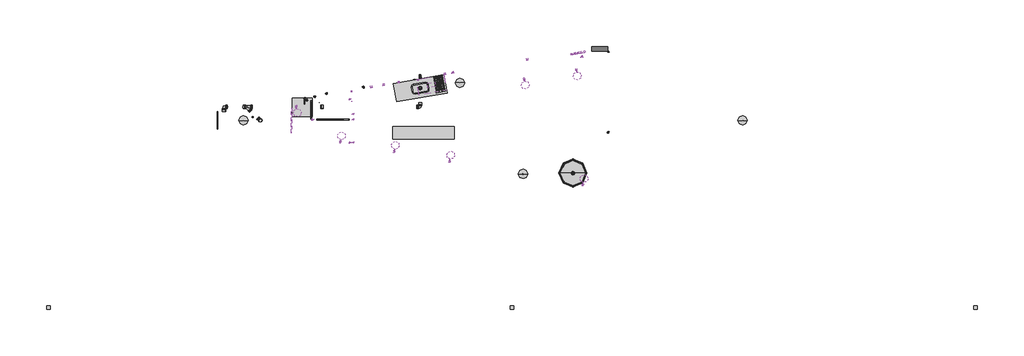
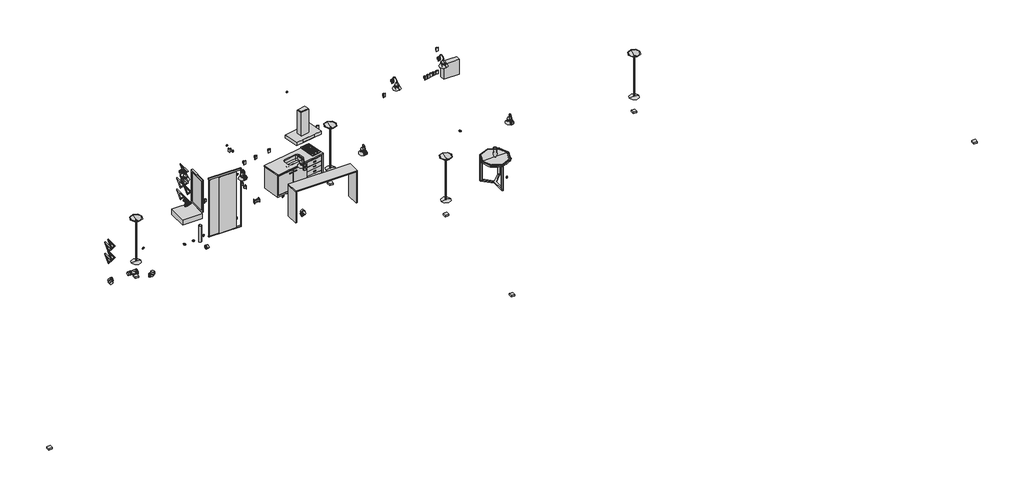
# One storey, incomplete: 27 pipe fittings, 18 light fixtures, 16 proxies, 10 plates, 7 cable carrier fittings, 7 switching devices, 6 flow terminals, 4 furniture elements.
"""IFC4 building model written with IfcOpenShell, lengths in millimetres."""

from ifc_helpers import new_model, si_unit, frame, origin, place, context, project, spatial, ellipse_curve, transform, mapped, element, save
from ifc_brep_helpers import cylinder_surface, advanced_brep
from components import specialty_equipment_48de4780, mechanical_equipment_0401596d, mechanical_equipment_61f77ee9, proxy_100_a_deb79597, cooktop_gas_miele_2_burner_c7116c69, tue_alta_10251bba, cable_carrier_fitting_8073d2f8, flow_terminal_f574be0a, flow_terminal_51a5b938, flow_terminal_f5ff5782, flow_terminal_25407447, flow_terminal_100_x_100_mm_1efbe544, cs2_560_x_335_cd160908, vidro_136e0591, furniture_c6021220, furniture_dbd7fda2, furniture_1b7d42ac, furniture_7d7f911b, light_fixture_100w_120v_0846f9e9, light_fixture_127v_5791e779, pipe_fitting_ea4bc239, pipe_fitting_cfdc0b9c, pipe_fitting_c36cd420, pipe_fitting_b5be2192, pipe_fitting_5686e5ae, pipe_fitting_60dbfa68, pipe_fitting_052252b0, pipe_fitting_2df96e2d, pipe_fitting_ddecea94, pipe_fitting_a3cdd3d7, pipe_fitting_5dcb9ee0, pipe_fitting_8690ee65, plate_e07f869c, plate_b1349e85

model = new_model("IFC4")

# Units and contexts
model_context = context("Model", 3, world=origin())
ifc_project = project(units=[si_unit("LENGTHUNIT", "METRE", prefix="MILLI")], contexts=[model_context])

# Site, building, storey
site = spatial("IfcSite", under=ifc_project)
building = spatial("IfcBuilding", under=site)
storey = spatial("IfcBuildingStorey", under=building, Name="TÉRREO", Elevation=0.0)

# Proxies
placement = place(None, origin())
specialty_equipment_shape = specialty_equipment_48de4780(model_context)
element("IfcBuildingElementProxy", 1, Name="Vaso estreito : Vaso estreito", ObjectType="Vaso estreito : Vaso estreito", at=placement, inside=storey, context=model_context, shape_type="MappedRepresentation", body=[
    mapped(specialty_equipment_shape, transform((133268.6768402, -77247.7398018, 900.0), x_axis=(-1.0, 0.0, 0.0), y_axis=(0.0, -1.0, 0.0), z_axis=(0.0, 0.0, 1.0))),
])
mechanical_equipment_shape = mechanical_equipment_0401596d(model_context)
element("IfcBuildingElementProxy", 2, Name="Coifa Gourmand de Parede : Coifa Gourmand de Parede", ObjectType="Coifa Gourmand de Parede : Coifa Gourmand de Parede", at=placement, inside=storey, context=model_context, shape_type="MappedRepresentation", body=[
    mapped(mechanical_equipment_shape, transform((128695.4834196, -74394.6416647, 1000.0), x_axis=(0.98480775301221, 0.17364817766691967, 0.0), y_axis=(-0.17364817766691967, 0.98480775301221, 0.0), z_axis=(0.0, 0.0, 1.0))),
])
mechanical_equipment_2_shape = mechanical_equipment_61f77ee9(model_context)
element("IfcBuildingElementProxy", 3, Name="M_Conector de duto retangular - Ar de exaustão - Equipamento mecânico : Padrão", ObjectType="M_Conector de duto retangular - Ar de exaustão - Equipamento mecânico : Padrão", at=placement, inside=storey, context=model_context, shape_type="MappedRepresentation", body=[
    mapped(mechanical_equipment_2_shape, transform((128695.4834196, -74394.6416647, 2384.9499323), x_axis=(-0.1736481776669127, 0.9848077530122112, 0.0), y_axis=(-0.9848077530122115, -0.17364817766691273, 0.0), z_axis=(0.0, 0.0, 1.0000000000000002))),
])
proxy_100_a_shape = proxy_100_a_deb79597(model_context)
element("IfcBuildingElementProxy", 4, Name="Painel Embutido : 100 A", ObjectType="Painel Embutido : 100 A", at=placement, inside=storey, context=model_context, shape_type="MappedRepresentation", body=[
    mapped(proxy_100_a_shape, transform((134136.0148435, -73148.5761254, 1619.1), x_axis=(-1.0, 0.0, 0.0), y_axis=(0.0, 0.0, 1.0), z_axis=(0.0, 1.0, 0.0))),
])
cooktop_gas_miele_2_burner_shape = cooktop_gas_miele_2_burner_c7116c69(model_context)
element("IfcBuildingElementProxy", 5, Name="Cooktop Gas Miele 2 Burner : 288w x 57h x 520d", ObjectType="Cooktop Gas Miele 2 Burner : 288w x 57h x 520d", at=placement, inside=storey, context=model_context, shape_type="MappedRepresentation", body=[
    mapped(cooktop_gas_miele_2_burner_shape, transform((128951.067168, -74369.8838863, 0.0), x_axis=(0.9848077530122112, 0.1736481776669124, 0.0), y_axis=(-0.1736481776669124, 0.9848077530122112, 0.0), z_axis=(0.0, 0.0, 1.0))),
])
tue_alta_shape = tue_alta_10251bba(model_context)
element("IfcBuildingElementProxy", 6, Name="Ponto de Tomada - Eletroduto -B-M-A-TUE : TUE alta", ObjectType="Ponto de Tomada - Eletroduto -B-M-A-TUE : TUE alta", at=placement, inside=storey, context=model_context, shape_type="MappedRepresentation", body=[
    mapped(tue_alta_shape, transform((126034.7608783, -74851.4613953, 2200.0), x_axis=(0.0, -1.0, 0.0), y_axis=(0.0, 0.0, 1.0), z_axis=(-1.0, 0.0, 0.0))),
])
element("IfcBuildingElementProxy", 7, Name="Ponto de Tomada - Eletroduto -B-M-A-TUE : TUE alta", ObjectType="Ponto de Tomada - Eletroduto -B-M-A-TUE : TUE alta", at=placement, inside=storey, context=model_context, shape_type="MappedRepresentation", body=[
    mapped(tue_alta_shape, transform((133561.4246533, -73494.6110342, 2200.0), x_axis=(0.9848077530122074, 0.17364817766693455, 0.0), y_axis=(0.0, 0.0, 1.0), z_axis=(0.17364817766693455, -0.9848077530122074, 0.0))),
])
element("IfcBuildingElementProxy", 8, Name="Ponto de Tomada - Eletroduto -B-M-A-TUE : TUE media", ObjectType="Ponto de Tomada - Eletroduto -B-M-A-TUE : TUE media", at=placement, inside=storey, context=model_context, shape_type="MappedRepresentation", body=[
    mapped(tue_alta_shape, transform((127640.5863255, -74319.5616739, 1300.0), x_axis=(0.9848077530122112, 0.17364817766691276, 0.0), y_axis=(0.0, 0.0, 1.0000000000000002), z_axis=(0.17364817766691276, -0.9848077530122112, 0.0))),
])
element("IfcBuildingElementProxy", 9, Name="Ponto de Tomada - Eletroduto -B-M-A-TUE : media 600VA", ObjectType="Ponto de Tomada - Eletroduto -B-M-A-TUE : media 600VA", at=placement, inside=storey, context=model_context, shape_type="MappedRepresentation", body=[
    mapped(tue_alta_shape, transform((124834.7608783, -75515.5558582, 1300.0), x_axis=(0.0, 1.0, 0.0), y_axis=(0.0, 0.0, -1.0), z_axis=(-1.0, 0.0, 0.0))),
])
element("IfcBuildingElementProxy", 10, Name="Ponto de Tomada - Eletroduto -B-M-A-TUE : media 600VA", ObjectType="Ponto de Tomada - Eletroduto -B-M-A-TUE : media 600VA", at=placement, inside=storey, context=model_context, shape_type="MappedRepresentation", body=[
    mapped(tue_alta_shape, transform((126184.7608783, -76263.7537878, 1300.0), x_axis=(0.0, 1.0, 0.0), y_axis=(0.0, 0.0, 1.0), z_axis=(1.0, 0.0, 0.0))),
])
element("IfcBuildingElementProxy", 11, Name="Ponto de Tomada - Eletroduto -B-M-A-TUE : media 600VA", ObjectType="Ponto de Tomada - Eletroduto -B-M-A-TUE : media 600VA", at=placement, inside=storey, context=model_context, shape_type="MappedRepresentation", body=[
    mapped(tue_alta_shape, transform((126184.7608783, -75343.0255541, 1300.0), x_axis=(0.0, 1.0, 0.0), y_axis=(0.0, 0.0, 1.0), z_axis=(1.0, 0.0, 0.0))),
])
element("IfcBuildingElementProxy", 12, Name="Ponto de Tomada - Eletroduto -B-M-A-TUE : media 600VA", ObjectType="Ponto de Tomada - Eletroduto -B-M-A-TUE : media 600VA", at=placement, inside=storey, context=model_context, shape_type="MappedRepresentation", body=[
    mapped(tue_alta_shape, transform((126746.5017561, -74477.2129065, 1300.0), x_axis=(-0.9848077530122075, -0.17364817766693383, 0.0), y_axis=(0.0, 0.0, -1.0), z_axis=(0.17364817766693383, -0.9848077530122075, 0.0))),
])
element("IfcBuildingElementProxy", 13, Name="Ponto de Tomada - Eletroduto -B-M-A-TUE : media 600VA", ObjectType="Ponto de Tomada - Eletroduto -B-M-A-TUE : media 600VA", at=placement, inside=storey, context=model_context, shape_type="MappedRepresentation", body=[
    mapped(tue_alta_shape, transform((127155.8368208, -74405.0360905, 1300.0), x_axis=(-0.9848077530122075, -0.17364817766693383, 0.0), y_axis=(0.0, 0.0, -1.0), z_axis=(0.17364817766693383, -0.9848077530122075, 0.0))),
])
element("IfcBuildingElementProxy", 14, Name="Ponto de Tomada - Eletroduto -B-M-A-TUE : media 600VA", ObjectType="Ponto de Tomada - Eletroduto -B-M-A-TUE : media 600VA", at=placement, inside=storey, context=model_context, shape_type="MappedRepresentation", body=[
    mapped(tue_alta_shape, transform((129134.267882, -74056.1853149, 1300.0), x_axis=(-0.9848077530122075, -0.17364817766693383, 0.0), y_axis=(0.0, 0.0, -1.0), z_axis=(0.17364817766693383, -0.9848077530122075, 0.0))),
])
element("IfcBuildingElementProxy", 15, Name="Ponto de Tomada - Eletroduto -B-M-A-TUE : media 600VA", ObjectType="Ponto de Tomada - Eletroduto -B-M-A-TUE : media 600VA", at=placement, inside=storey, context=model_context, shape_type="MappedRepresentation", body=[
    mapped(tue_alta_shape, transform((131793.5979262, -73587.2736775, 1300.0), x_axis=(0.9848077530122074, 0.17364817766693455, 0.0), y_axis=(0.0, 0.0, 1.0), z_axis=(0.17364817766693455, -0.9848077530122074, 0.0))),
])
element("IfcBuildingElementProxy", 16, Name="Ponto de Tomada - Eletroduto -B-M-A-TUE : media 600VA", ObjectType="Ponto de Tomada - Eletroduto -B-M-A-TUE : media 600VA", at=placement, inside=storey, context=model_context, shape_type="MappedRepresentation", body=[
    mapped(tue_alta_shape, transform((133650.0231785, -73341.4784791, 1300.0), x_axis=(0.9848077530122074, 0.17364817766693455, 0.0), y_axis=(0.0, 0.0, 1.0), z_axis=(0.17364817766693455, -0.9848077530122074, 0.0))),
])

# Cable carrier fittings
cable_carrier_fitting_shape = cable_carrier_fitting_8073d2f8(model_context)
element("IfcCableCarrierFitting", 17, ObjectType="M_Caixa de junção do conduíte - Cruzamento - Alumínio : Caixa de junção do conduíte - Cruzamento - Alumínio", at=placement, inside=storey, context=model_context, shape_type="MappedRepresentation", body=[
    mapped(cable_carrier_fitting_shape, transform((116304.3605052, -81608.0867177, -500.0), x_axis=(1.0, 0.0, 0.0), y_axis=(0.0, 1.0, 0.0), z_axis=(0.0, 0.0, 1.0))),
])
element("IfcCableCarrierFitting", 18, ObjectType="M_Caixa de junção do conduíte - Cruzamento - Alumínio : Caixa de junção do conduíte - Cruzamento - Alumínio", at=placement, inside=storey, context=model_context, shape_type="MappedRepresentation", body=[
    mapped(cable_carrier_fitting_shape, transform((131295.2229105, -81608.1676725, -500.0), x_axis=(1.0, 0.0, 0.0), y_axis=(0.0, 1.0, 0.0), z_axis=(0.0, 0.0, 1.0))),
])
element("IfcCableCarrierFitting", 19, ObjectType="M_Caixa de junção do conduíte - Cruzamento - Alumínio : Caixa de junção do conduíte - Cruzamento - Alumínio", at=placement, inside=storey, context=model_context, shape_type="MappedRepresentation", body=[
    mapped(cable_carrier_fitting_shape, transform((146295.2131449, -81608.1676725, -500.0), x_axis=(1.0, 0.0, 0.0), y_axis=(0.0, 1.0, 0.0), z_axis=(0.0, 0.0, 1.0))),
])
element("IfcCableCarrierFitting", 20, ObjectType="M_Caixa de junção do conduíte - Cruzamento - Alumínio : Caixa de junção do conduíte - Cruzamento - Alumínio", at=placement, inside=storey, context=model_context, shape_type="MappedRepresentation", body=[
    mapped(cable_carrier_fitting_shape, transform((138758.1948705, -75543.0255541, -500.0), x_axis=(1.0, 0.0, 0.0), y_axis=(0.0, 1.0, 0.0), z_axis=(0.0, 0.0, 1.0))),
])
element("IfcCableCarrierFitting", 21, ObjectType="M_Caixa de junção do conduíte - Cruzamento - Alumínio : Caixa de junção do conduíte - Cruzamento - Alumínio", at=placement, inside=storey, context=model_context, shape_type="MappedRepresentation", body=[
    mapped(cable_carrier_fitting_shape, transform((131656.0148435, -77276.3741611, -500.0), x_axis=(1.0, 0.0, 0.0), y_axis=(0.0, 1.0, 0.0), z_axis=(0.0, 0.0, 1.0))),
])
element("IfcCableCarrierFitting", 22, ObjectType="M_Caixa de junção do conduíte - Cruzamento - Alumínio : Caixa de junção do conduíte - Cruzamento - Alumínio", at=placement, inside=storey, context=model_context, shape_type="MappedRepresentation", body=[
    mapped(cable_carrier_fitting_shape, transform((129616.0148435, -74324.7072135, -500.0), x_axis=(1.0, 0.0, 0.0), y_axis=(0.0, 1.0, 0.0), z_axis=(0.0, 0.0, 1.0))),
])
element("IfcCableCarrierFitting", 23, ObjectType="M_Caixa de junção do conduíte - Cruzamento - Alumínio : Caixa de junção do conduíte - Cruzamento - Alumínio", at=placement, inside=storey, context=model_context, shape_type="MappedRepresentation", body=[
    mapped(cable_carrier_fitting_shape, transform((122616.0148435, -75543.0255541, -500.0), x_axis=(1.0, 0.0, 0.0), y_axis=(0.0, 1.0, 0.0), z_axis=(0.0, 0.0, 1.0))),
])

# Flow terminals
flow_terminal_shape = flow_terminal_f574be0a(model_context)
flow_terminal_2_shape = flow_terminal_51a5b938(model_context)
element("IfcFlowTerminal", 24, ObjectType="Torneira de mesa para copas e áreas de serviço : Torneira de mesa para copas e áreas de serviço", at=placement, inside=storey, context=model_context, shape_type="MappedRepresentation", body=[
    mapped(flow_terminal_shape, transform((124600.4173712, -74888.3349702, 800.0), x_axis=(1.0, 0.0, 0.0), y_axis=(0.0, 1.0, 0.0), z_axis=(0.0, 0.0, 1.0))),
    mapped(flow_terminal_2_shape, transform((124600.4173712, -74888.3349702, 800.0), x_axis=(1.0, 0.0, 0.0), y_axis=(0.0, 1.0, 0.0), z_axis=(0.0, 0.0, 1.0))),
])
flow_terminal_3_shape = flow_terminal_f5ff5782(model_context)
element("IfcFlowTerminal", 25, ObjectType="Bancada Linear com Cuba : Profundidade 60cm", at=placement, inside=storey, context=model_context, shape_type="MappedRepresentation", body=[
    mapped(flow_terminal_3_shape, transform((128330.1317418, -74499.6800875, 70.0), x_axis=(0.9848077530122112, 0.17364817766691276, 0.0), y_axis=(-0.17364817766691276, 0.9848077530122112, 0.0), z_axis=(0.0, 0.0, 1.0))),
])
flow_terminal_4_shape = flow_terminal_25407447(model_context)
element("IfcFlowTerminal", 26, ObjectType="Bancada Linear com Cuba : Profundidade 60cm", at=placement, inside=storey, context=model_context, shape_type="MappedRepresentation", body=[
    mapped(flow_terminal_4_shape, transform((124517.5891248, -75114.0812339, 0.0), x_axis=(1.0000000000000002, 0.0, 0.0), y_axis=(0.0, 1.0000000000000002, 0.0), z_axis=(0.0, 0.0, 1.0))),
])
flow_terminal_100_x_100_mm_shape = flow_terminal_100_x_100_mm_1efbe544(model_context)
element("IfcFlowTerminal", 27, ObjectType="Prolongamento para Caixa Sifonada - Caixas e Ralos : 100 x 100 mm", at=placement, inside=storey, context=model_context, shape_type="MappedRepresentation", body=[
    mapped(flow_terminal_100_x_100_mm_shape, transform((125063.0715569, -74908.3933885, -7.05), x_axis=(0.0, 1.0, 0.0), y_axis=(-1.0, 0.0, 0.0), z_axis=(0.0, 0.0, 1.0))),
])
cs2_560_x_335_shape = cs2_560_x_335_cd160908(model_context)
element("IfcFlowTerminal", 28, ObjectType="Cuba Cozinha de Embutir Simples Retangular : CS2 560 x 335", at=placement, inside=storey, context=model_context, shape_type="MappedRepresentation", body=[
    mapped(cs2_560_x_335_shape, transform((128330.1317418, -74499.6800875, 870.0), x_axis=(0.9848077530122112, 0.17364817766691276, 0.0), y_axis=(-0.17364817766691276, 0.9848077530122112, 0.0), z_axis=(0.0, 0.0, 1.0))),
])
vidro_shape = vidro_136e0591(model_context)
element("IfcFlowTerminal", 29, ObjectType="Porta de Correr Box Chuveiro : Vidro", at=placement, inside=storey, context=model_context, shape_type="MappedRepresentation", body=[
    mapped(vidro_shape, transform((125554.4612048, -75535.5558582, 0.0), x_axis=(-1.0000000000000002, 0.0, 0.0), y_axis=(0.0, -1.0000000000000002, 0.0), z_axis=(0.0, 0.0, 1.0))),
])

# Furniture
furniture_shape = furniture_c6021220(model_context)
element("IfcFurniture", 30, ObjectType="Espelho cristal com moldura de alumínio natural : Espelho c/ Moldura  Alumínio Cristal s/ Bisote - 60x110", at=placement, inside=storey, context=model_context, shape_type="MappedRepresentation", body=[
    mapped(furniture_shape, transform((124784.7608783, -75195.5558582, 900.0), x_axis=(0.0, 1.0, 0.0), y_axis=(-1.0, 0.0, 0.0), z_axis=(0.0, 0.0, 1.0))),
])
furniture_2_shape = furniture_dbd7fda2(model_context)
element("IfcFurniture", 31, ObjectType="Mesa de Centro Hydra - Ø90cm : Mesa de Centro Hydra - Ø90cm", at=placement, inside=storey, context=model_context, shape_type="MappedRepresentation", body=[
    mapped(furniture_2_shape, transform((133268.6768402, -77247.7398018, 0.0), x_axis=(-1.0, 0.0, 0.0), y_axis=(0.0, -1.0, 0.0), z_axis=(0.0, 0.0, 1.0))),
])
furniture_3_shape = furniture_1b7d42ac(model_context)
element("IfcFurniture", 32, ObjectType="Armário coz baixo 2p 4g : Armário coz baixo 2p 4g", at=placement, inside=storey, context=model_context, shape_type="MappedRepresentation", body=[
    mapped(furniture_3_shape, transform((128230.8285034, -74222.7162102, 0.0), x_axis=(0.9848077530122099, 0.17364817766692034, 0.0), y_axis=(-0.17364817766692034, 0.9848077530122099, 0.0), z_axis=(0.0, 0.0, 1.0))),
])
furniture_4_shape = furniture_7d7f911b(model_context)
element("IfcFurniture", 33, ObjectType="Bancada Aparador : Bancada Aparador 40", at=placement, inside=storey, context=model_context, shape_type="MappedRepresentation", body=[
    mapped(furniture_4_shape, transform((128237.059048, -76146.8389081, 0.0), x_axis=(-1.0, 0.0, 0.0), y_axis=(0.0, -1.0, 0.0), z_axis=(0.0, 0.0, 1.0))),
])

# Light fixtures
element("IfcLightFixture", 34, ObjectType="Ponto de Arandela : arandela", at=placement, inside=storey, context=model_context, shape_type="MappedRepresentation", body=[
    mapped(tue_alta_shape, transform((124324.9945321, -75107.2752865, 2200.0), x_axis=(0.9848077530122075, 0.17364817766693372, 0.0), y_axis=(0.0, 0.0, 1.0), z_axis=(0.17364817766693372, -0.9848077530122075, 0.0))),
])
element("IfcLightFixture", 35, ObjectType="Ponto de Arandela : arandela", at=placement, inside=storey, context=model_context, shape_type="MappedRepresentation", body=[
    mapped(tue_alta_shape, transform((125751.9164193, -76230.3806498, 2200.0), x_axis=(-0.9848077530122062, 0.17364817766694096, 0.0), y_axis=(0.0, 0.0, 1.0000000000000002), z_axis=(0.17364817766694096, 0.9848077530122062, 0.0))),
])
element("IfcLightFixture", 36, ObjectType="Ponto de Arandela : arandela", at=placement, inside=storey, context=model_context, shape_type="MappedRepresentation", body=[
    mapped(tue_alta_shape, transform((127493.4888973, -76537.4668666, 2100.0), x_axis=(-0.984807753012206, 0.17364817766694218, 0.0), y_axis=(0.0, 0.0, 1.0000000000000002), z_axis=(0.17364817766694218, 0.984807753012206, 0.0))),
])
element("IfcLightFixture", 37, ObjectType="Ponto de Arandela : arandela", at=placement, inside=storey, context=model_context, shape_type="MappedRepresentation", body=[
    mapped(tue_alta_shape, transform((129286.3318438, -76853.5934502, 2200.0), x_axis=(-0.9848077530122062, 0.17364817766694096, 0.0), y_axis=(0.0, 0.0, 1.0000000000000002), z_axis=(0.17364817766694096, 0.9848077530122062, 0.0))),
])
element("IfcLightFixture", 38, ObjectType="Ponto de Arandela : arandela", at=placement, inside=storey, context=model_context, shape_type="MappedRepresentation", body=[
    mapped(tue_alta_shape, transform((133596.9247593, -77613.6672841, 2200.0), x_axis=(-0.9848077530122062, 0.17364817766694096, 0.0), y_axis=(0.0, 0.0, 1.0000000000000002), z_axis=(0.17364817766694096, 0.9848077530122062, 0.0))),
])
element("IfcLightFixture", 39, ObjectType="Ponto de Arandela : arandela", at=placement, inside=storey, context=model_context, shape_type="MappedRepresentation", body=[
    mapped(tue_alta_shape, transform((133378.5255361, -73917.0641446, 2200.0), x_axis=(0.9848077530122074, 0.17364817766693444, 0.0), y_axis=(0.0, 0.0, 1.0), z_axis=(0.17364817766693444, -0.9848077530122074, 0.0))),
])
element("IfcLightFixture", 40, ObjectType="Ponto de Arandela : arandela", at=placement, inside=storey, context=model_context, shape_type="MappedRepresentation", body=[
    mapped(tue_alta_shape, transform((131694.1012119, -74214.0735999, 2200.0), x_axis=(0.9848077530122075, 0.17364817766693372, 0.0), y_axis=(0.0, 0.0, 1.0), z_axis=(0.17364817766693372, -0.9848077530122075, 0.0))),
])
light_fixture_100w_120v_shape = light_fixture_100w_120v_0846f9e9(model_context)
element("IfcLightFixture", 41, ObjectType="M_Luminária de parede - Arandela : 100W - 120V", at=placement, inside=storey, context=model_context, shape_type="MappedRepresentation", body=[
    mapped(light_fixture_100w_120v_shape, transform((131694.1012119, -74214.0735999, 2200.0), x_axis=(0.9848077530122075, 0.17364817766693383, 0.0), y_axis=(0.0, 0.0, 1.0), z_axis=(0.17364817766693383, -0.9848077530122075, 0.0))),
])
element("IfcLightFixture", 42, ObjectType="M_Luminária de parede - Arandela : 100W - 120V", at=placement, inside=storey, context=model_context, shape_type="MappedRepresentation", body=[
    mapped(light_fixture_100w_120v_shape, transform((133378.5255361, -73917.0641446, 2200.0), x_axis=(0.9848077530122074, 0.17364817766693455, 0.0), y_axis=(0.0, 0.0, 1.0), z_axis=(0.17364817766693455, -0.9848077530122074, 0.0))),
])
element("IfcLightFixture", 43, ObjectType="M_Luminária de parede - Arandela : 100W - 120V", at=placement, inside=storey, context=model_context, shape_type="MappedRepresentation", body=[
    mapped(light_fixture_100w_120v_shape, transform((124322.9699537, -75107.6322743, 2200.0), x_axis=(0.9848077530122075, 0.17364817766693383, 0.0), y_axis=(0.0, 0.0, 1.0), z_axis=(0.17364817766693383, -0.9848077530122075, 0.0))),
])
element("IfcLightFixture", 44, ObjectType="M_Luminária de parede - Arandela : 100W - 120V", at=placement, inside=storey, context=model_context, shape_type="MappedRepresentation", body=[
    mapped(light_fixture_100w_120v_shape, transform((125751.9164193, -76230.3806498, 2200.0), x_axis=(-0.9848077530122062, 0.17364817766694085, 0.0), y_axis=(0.0, 0.0, 1.0000000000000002), z_axis=(0.17364817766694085, 0.9848077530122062, 0.0))),
])
element("IfcLightFixture", 45, ObjectType="M_Luminária de parede - Arandela : 100W - 120V", at=placement, inside=storey, context=model_context, shape_type="MappedRepresentation", body=[
    mapped(light_fixture_100w_120v_shape, transform((127493.4888973, -76537.4668666, 2200.0), x_axis=(-0.984807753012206, 0.17364817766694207, 0.0), y_axis=(0.0, 0.0, 1.0), z_axis=(0.17364817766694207, 0.984807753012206, 0.0))),
])
element("IfcLightFixture", 46, ObjectType="M_Luminária de parede - Arandela : 100W - 120V", at=placement, inside=storey, context=model_context, shape_type="MappedRepresentation", body=[
    mapped(light_fixture_100w_120v_shape, transform((129286.3318438, -76853.5934502, 2200.0), x_axis=(-0.9848077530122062, 0.17364817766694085, 0.0), y_axis=(0.0, 0.0, 1.0000000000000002), z_axis=(0.17364817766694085, 0.9848077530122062, 0.0))),
])
element("IfcLightFixture", 47, ObjectType="M_Luminária de parede - Arandela : 100W - 120V", at=placement, inside=storey, context=model_context, shape_type="MappedRepresentation", body=[
    mapped(light_fixture_100w_120v_shape, transform((133596.9247593, -77613.6672841, 2200.0), x_axis=(-0.9848077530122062, 0.17364817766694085, 0.0), y_axis=(0.0, 0.0, 1.0000000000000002), z_axis=(0.17364817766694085, 0.9848077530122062, 0.0))),
])
light_fixture_127v_shape = light_fixture_127v_5791e779(model_context)
element("IfcLightFixture", 48, ObjectType="M_Abajur de pé - Tocha : 127V", at=placement, inside=storey, context=model_context, shape_type="MappedRepresentation", body=[
    mapped(light_fixture_127v_shape, transform((122616.0148435, -75543.0255541, 0.0), x_axis=(1.0, 0.0, 0.0), y_axis=(0.0, 1.0, 0.0), z_axis=(0.0, 0.0, 1.0))),
])
element("IfcLightFixture", 49, ObjectType="M_Abajur de pé - Tocha : 127V", at=placement, inside=storey, context=model_context, shape_type="MappedRepresentation", body=[
    mapped(light_fixture_127v_shape, transform((138758.1948705, -75543.0255541, 0.0), x_axis=(1.0, 0.0, 0.0), y_axis=(0.0, 1.0, 0.0), z_axis=(0.0, 0.0, 1.0))),
])
element("IfcLightFixture", 50, ObjectType="M_Abajur de pé - Tocha : 127V", at=placement, inside=storey, context=model_context, shape_type="MappedRepresentation", body=[
    mapped(light_fixture_127v_shape, transform((131656.0148435, -77276.3741611, 0.0), x_axis=(1.0, 0.0, 0.0), y_axis=(0.0, 1.0, 0.0), z_axis=(0.0, 0.0, 1.0))),
])
element("IfcLightFixture", 51, ObjectType="M_Abajur de pé - Tocha : 127V", at=placement, inside=storey, context=model_context, shape_type="MappedRepresentation", body=[
    mapped(light_fixture_127v_shape, transform((129616.0148435, -74324.7072135, 0.0), x_axis=(1.0, 0.0, 0.0), y_axis=(0.0, 1.0, 0.0), z_axis=(0.0, 0.0, 1.0))),
])

# Pipe fittings
pipe_fitting_shape = pipe_fitting_ea4bc239(model_context)
element("IfcPipeFitting", 52, ObjectType="Luva Simples para Conexão - Serie Normal - Esgoto - MEP - Tigre : Luva Simples para Conexão - Serie Normal - Esgoto - MEP - Tigre", at=placement, inside=storey, context=model_context, shape_type="MappedRepresentation", body=[
    mapped(pipe_fitting_shape, transform((128330.1317418, -74090.6396497, -452.8148005), x_axis=(0.0, 0.0, 1.0), y_axis=(0.0, -1.0, 0.0), z_axis=(1.0, 0.0, 0.0))),
])
element("IfcPipeFitting", 53, ObjectType="Luva Simples para Conexão - Serie Normal - Esgoto - MEP - Tigre : Luva Simples para Conexão - Serie Normal - Esgoto - MEP - Tigre", at=placement, inside=storey, context=model_context, shape_type="MappedRepresentation", body=[
    mapped(pipe_fitting_shape, transform((128330.1317418, -74121.318714, 403.6135813), x_axis=(0.0, -0.999800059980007, 0.019996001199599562), y_axis=(0.0, -0.019996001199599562, -0.999800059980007), z_axis=(1.0, 0.0, 0.0))),
])
pipe_fitting_2_shape = pipe_fitting_cfdc0b9c(model_context)
element("IfcPipeFitting", 54, ObjectType="Joelho 45_90 - Agua Fria_Soldavel : Joelho 45_90 - Agua Fria_Soldavel", at=placement, inside=storey, context=model_context, shape_type="MappedRepresentation", body=[
    mapped(pipe_fitting_2_shape, transform((134421.0148435, -73299.1142723, -1000.0), x_axis=(0.0, 1.0, 0.0), y_axis=(-1.0, 0.0, 0.0), z_axis=(0.0, 0.0, 1.0))),
])
element("IfcPipeFitting", 55, ObjectType="Joelho 45_90 - Agua Fria_Soldavel : Joelho 45_90 - Agua Fria_Soldavel", at=placement, inside=storey, context=model_context, shape_type="MappedRepresentation", body=[
    mapped(pipe_fitting_2_shape, transform((134421.0148435, -75940.5558582, -1000.0), x_axis=(1.0, 0.0, 0.0), y_axis=(0.0, 1.0, 0.0), z_axis=(0.0, 0.0, 1.0))),
])
element("IfcPipeFitting", 56, ObjectType="Joelho 45_90 - Agua Fria_Soldavel : Joelho 45_90 - Agua Fria_Soldavel", at=placement, inside=storey, context=model_context, shape_type="MappedRepresentation", body=[
    mapped(pipe_fitting_2_shape, transform((122902.8144143, -75430.7653095, 300.0), x_axis=(-1.0, 0.0, 0.0), y_axis=(0.0, 0.0, -1.0), z_axis=(0.0, -1.0, 0.0))),
])
element("IfcPipeFitting", 57, ObjectType="Joelho 45_90 - Agua Fria_Soldavel : Joelho 45_90 - Agua Fria_Soldavel", at=placement, inside=storey, context=model_context, shape_type="MappedRepresentation", body=[
    mapped(pipe_fitting_2_shape, transform((124591.4039784, -74857.2147908, 1000.0), x_axis=(0.0, 0.0, 1.0), y_axis=(0.1736481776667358, -0.9848077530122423, 0.0), z_axis=(0.9848077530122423, 0.1736481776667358, 0.0))),
])
element("IfcPipeFitting", 58, ObjectType="Joelho 45_90 - Agua Fria_Soldavel : Joelho 45_90 - Agua Fria_Soldavel", at=placement, inside=storey, context=model_context, shape_type="MappedRepresentation", body=[
    mapped(pipe_fitting_2_shape, transform((126109.7608783, -74948.9305917, 2200.0), x_axis=(1.0, 0.0, 0.0), y_axis=(0.0, 1.0, 0.0), z_axis=(0.0, 0.0, 1.0))),
])
element("IfcPipeFitting", 59, ObjectType="Joelho 45_90 - Agua Fria_Soldavel : Joelho 45_90 - Agua Fria_Soldavel", at=placement, inside=storey, context=model_context, shape_type="MappedRepresentation", body=[
    mapped(pipe_fitting_2_shape, transform((126109.7608783, -74589.487503, 2200.0), x_axis=(0.0, 1.0, 0.0), y_axis=(0.0, 0.0, -1.0), z_axis=(-1.0, 0.0, 0.0))),
])
pipe_fitting_3_shape = pipe_fitting_c36cd420(model_context)
element("IfcPipeFitting", 60, ObjectType="Luva Simples para Conexão - Serie Normal - Esgoto - MEP - Tigre : Luva Simples para Conexão - Serie Normal - Esgoto - MEP - Tigre", at=placement, inside=storey, context=model_context, shape_type="MappedRepresentation", body=[
    mapped(pipe_fitting_3_shape, transform((121987.1193633, -75166.2704356, -686.827608), x_axis=(0.0, -0.9999500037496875, -0.009999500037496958), y_axis=(0.9999307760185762, -0.00011765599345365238, 0.011765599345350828), z_axis=(-0.011766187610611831, -0.009998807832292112, 0.999880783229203))),
])
element("IfcPipeFitting", 61, ObjectType="Luva Simples para Conexão - Serie Normal - Esgoto - MEP - Tigre : Luva Simples para Conexão - Serie Normal - Esgoto - MEP - Tigre", at=placement, inside=storey, context=model_context, shape_type="MappedRepresentation", body=[
    mapped(pipe_fitting_3_shape, transform((128330.1317285, -75048.2885707, -611.1100907), x_axis=(0.0, 0.9999500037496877, 0.009999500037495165), y_axis=(-0.9999307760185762, 0.0001176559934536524, -0.011765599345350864), z_axis=(-0.011766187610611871, -0.009998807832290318, 0.9998807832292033))),
])
element("IfcPipeFitting", 62, ObjectType="Luva Simples para Conexão - Serie Normal - Esgoto - MEP - Tigre : Luva Simples para Conexão - Serie Normal - Esgoto - MEP - Tigre", at=placement, inside=storey, context=model_context, shape_type="MappedRepresentation", body=[
    mapped(pipe_fitting_3_shape, transform((123157.9959601, -75543.0255541, -607.3046653), x_axis=(0.0, 0.0, 1.0), y_axis=(-0.7071067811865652, 0.7071067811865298, 0.0), z_axis=(-0.7071067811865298, -0.7071067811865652, 0.0))),
])
element("IfcPipeFitting", 63, ObjectType="Luva Simples para Conexão - Serie Normal - Esgoto : Luva Simples para Conexão - Serie Normal - Esgoto", at=placement, inside=storey, context=model_context, shape_type="MappedRepresentation", body=[
    mapped(pipe_fitting_3_shape, transform((125118.907702, -75107.2795032, -649.4355673), x_axis=(0.9999309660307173, 0.0, 0.011750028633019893), y_axis=(0.00023493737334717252, -0.9998000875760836, -0.019993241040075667), z_axis=(0.011747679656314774, 0.019994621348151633, -0.9997310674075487))),
])
element("IfcPipeFitting", 64, ObjectType="Luva Simples para Conexão - Serie Normal - Esgoto : Luva Simples para Conexão - Serie Normal - Esgoto", at=placement, inside=storey, context=model_context, shape_type="MappedRepresentation", body=[
    mapped(pipe_fitting_3_shape, transform((122684.012549, -75107.2795032, -678.0476303), x_axis=(-0.9999309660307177, 0.0, -0.011750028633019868), y_axis=(-0.00019422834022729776, -0.999863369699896, 0.016528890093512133), z_axis=(-0.01174842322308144, 0.016530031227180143, 0.9997943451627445))),
])
pipe_fitting_4_shape = pipe_fitting_b5be2192(model_context)
element("IfcPipeFitting", 65, ObjectType="Joelho 45_90 - Serie Normal - Esgoto : Joelho 45_90 - Serie Normal - Esgoto", at=placement, inside=storey, context=model_context, shape_type="MappedRepresentation", body=[
    mapped(pipe_fitting_4_shape, transform((128330.1317418, -74090.6396497, -483.5), x_axis=(0.0, 0.999800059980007, 0.01999600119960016), y_axis=(0.0, -0.01999600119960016, 0.999800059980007), z_axis=(1.0, 0.0, 0.0))),
])
element("IfcPipeFitting", 66, ObjectType="Joelho 45_90 - Serie Normal - Esgoto : Joelho 45_90 - Serie Normal - Esgoto", at=placement, inside=storey, context=model_context, shape_type="MappedRepresentation", body=[
    mapped(pipe_fitting_4_shape, transform((128330.1317418, -74090.6396497, 403.0), x_axis=(0.0, 0.0, 1.0), y_axis=(0.0, -1.0, 0.0), z_axis=(1.0, 0.0, 0.0))),
])
pipe_fitting_5_shape = pipe_fitting_5686e5ae(model_context)
element("IfcPipeFitting", 67, ObjectType="Joelho 45_90 - Serie Normal - Esgoto : Joelho 45_90 - Serie Normal - Esgoto", at=placement, inside=storey, context=model_context, shape_type="MappedRepresentation", body=[
    mapped(pipe_fitting_5_shape, transform((121987.1193633, -75107.2795032, -686.2376986), x_axis=(-0.9999307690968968, 0.0, -0.011766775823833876), y_axis=(0.00011765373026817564, -0.9999500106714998, -0.009998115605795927), z_axis=(-0.011766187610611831, -0.009998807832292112, 0.999880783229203))),
])
element("IfcPipeFitting", 68, ObjectType="Joelho 45_90 - Serie Normal - Esgoto : Joelho 45_90 - Serie Normal - Esgoto", at=placement, inside=storey, context=model_context, shape_type="MappedRepresentation", body=[
    mapped(pipe_fitting_5_shape, transform((128330.1317285, -75107.2795032, -611.7), x_axis=(0.9999307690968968, 0.0, 0.011766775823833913), y_axis=(-0.00011765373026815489, 0.9999500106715, 0.009998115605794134), z_axis=(-0.011766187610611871, -0.009998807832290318, 0.9998807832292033))),
])
pipe_fitting_6_shape = pipe_fitting_60dbfa68(model_context)
element("IfcPipeFitting", 69, ObjectType="Joelho 45_90 - Serie Normal - Esgoto : Joelho 45_90 - Serie Normal - Esgoto", at=placement, inside=storey, context=model_context, shape_type="MappedRepresentation", body=[
    mapped(pipe_fitting_6_shape, transform((124921.2222981, -74766.6272891, -559.0178971), x_axis=(-0.7069654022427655, 0.7069654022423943, 0.01999600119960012), y_axis=(-0.7069213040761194, -0.7072156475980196, 0.010406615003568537), z_axis=(0.02149860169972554, -0.006778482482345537, 0.9997458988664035))),
])
pipe_fitting_7_shape = pipe_fitting_052252b0(model_context)
element("IfcPipeFitting", 70, ObjectType="Joelho 45_90 - Serie Normal - Esgoto : Joelho 45_90 - Serie Normal - Esgoto", at=placement, inside=storey, context=model_context, shape_type="MappedRepresentation", body=[
    mapped(pipe_fitting_7_shape, transform((124590.1186663, -74825.0097928, -552.2936681), x_axis=(-0.9846108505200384, -0.17361345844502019, 0.01999600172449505), y_axis=(0.019692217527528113, 0.0034722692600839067, 0.9998000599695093), z_axis=(-0.17364817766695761, 0.9848077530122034, 0.0))),
])
element("IfcPipeFitting", 71, ObjectType="Joelho 45_90 - Serie Normal - Esgoto : Joelho 45_90 - Serie Normal - Esgoto", at=placement, inside=storey, context=model_context, shape_type="MappedRepresentation", body=[
    mapped(pipe_fitting_7_shape, transform((124590.1186663, -74825.0097928, 999.8855439), x_axis=(0.0, 0.0, 1.0), y_axis=(0.17364817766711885, -0.9848077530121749, 0.0), z_axis=(0.9848077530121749, 0.17364817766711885, 0.0))),
])
element("IfcPipeFitting", 72, ObjectType="Joelho 45_90 - Serie Normal - Esgoto : Joelho 45_90 - Serie Normal - Esgoto", at=placement, inside=storey, context=model_context, shape_type="MappedRepresentation", body=[
    mapped(pipe_fitting_7_shape, transform((126500.7106805, -74460.3689469, -541.2), x_axis=(0.9846108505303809, 0.17361345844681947, 0.01999600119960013), y_axis=(-0.019692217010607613, -0.003472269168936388, 0.9998000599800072), z_axis=(0.17364817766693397, -0.9848077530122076, 0.0))),
])
element("IfcPipeFitting", 73, ObjectType="Joelho 45_90 - Serie Normal - Esgoto : Joelho 45_90 - Serie Normal - Esgoto", at=placement, inside=storey, context=model_context, shape_type="MappedRepresentation", body=[
    mapped(pipe_fitting_7_shape, transform((126500.7106805, -74460.3689469, 1000.0), x_axis=(0.0, 0.0, 1.0), y_axis=(0.17364817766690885, -0.984807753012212, 0.0), z_axis=(0.984807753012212, 0.17364817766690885, 0.0))),
])
pipe_fitting_8_shape = pipe_fitting_2df96e2d(model_context)
element("IfcPipeFitting", 74, ObjectType="Te_Juncao - Serie Normal - Esgoto : Te_Juncao - Serie Normal - Esgoto", at=placement, inside=storey, context=model_context, shape_type="MappedRepresentation", body=[
    mapped(pipe_fitting_8_shape, transform((122722.2499091, -75107.2795032, -677.5983092), x_axis=(0.9999309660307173, 0.0, 0.01175002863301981), y_axis=(0.00019422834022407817, 0.9998633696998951, -0.016528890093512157), z_axis=(-0.011748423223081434, 0.016530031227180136, 0.999794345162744))),
])
pipe_fitting_9_shape = pipe_fitting_ddecea94(model_context)
element("IfcPipeFitting", 75, ObjectType="Joelho 45_90 - Serie Normal - Esgoto : Joelho 45_90 - Serie Normal - Esgoto", at=placement, inside=storey, context=model_context, shape_type="MappedRepresentation", body=[
    mapped(pipe_fitting_9_shape, transform((123157.9959601, -75543.0255541, -665.2752405), x_axis=(0.7069654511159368, -0.7069654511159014, 0.019992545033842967), y_axis=(-0.01413686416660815, 0.014136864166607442, 0.9998001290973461), z_axis=(-0.7071067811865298, -0.7071067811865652, 0.0))),
])
pipe_fitting_10_shape = pipe_fitting_a3cdd3d7(model_context)
element("IfcPipeFitting", 76, ObjectType="Joelho 45_90 - Serie Normal - Esgoto : Joelho 45_90 - Serie Normal - Esgoto", at=placement, inside=storey, context=model_context, shape_type="MappedRepresentation", body=[
    mapped(pipe_fitting_10_shape, transform((125299.2452218, -74672.2197236, -565.6), x_axis=(-0.9846108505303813, -0.17361345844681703, -0.019996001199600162), y_axis=(0.1737688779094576, -0.9847662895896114, -0.006303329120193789), z_axis=(-0.018597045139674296, -0.009681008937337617, 0.9997801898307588))),
])
pipe_fitting_11_shape = pipe_fitting_5dcb9ee0(model_context)
element("IfcPipeFitting", 77, ObjectType="Joelho 45_90 - Agua Fria_Soldavel : Joelho 45_90 - Agua Fria_Soldavel", at=placement, inside=storey, context=model_context, shape_type="MappedRepresentation", body=[
    mapped(pipe_fitting_11_shape, transform((128149.4308866, -74229.8386488, -500.0), x_axis=(-0.0332222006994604, -0.0037996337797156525, -0.9994407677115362), y_axis=(-0.9842472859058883, -0.17361809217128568, 0.033377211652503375), z_axis=(-0.17364782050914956, 0.9848057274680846, 0.0020281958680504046))),
])
pipe_fitting_12_shape = pipe_fitting_8690ee65(model_context)
element("IfcPipeFitting", 78, ObjectType="Joelho 45_90 - Agua Fria_Soldavel : Joelho 45_90 - Agua Fria_Soldavel", at=placement, inside=storey, context=model_context, shape_type="MappedRepresentation", body=[
    mapped(pipe_fitting_12_shape, transform((128267.6018951, -74216.3233925, 3055.0), x_axis=(0.03322220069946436, 0.0037996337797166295, 0.9994407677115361), y_axis=(0.00012623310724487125, -0.9999927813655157, 0.0037975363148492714), z_axis=(0.9994479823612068, 0.0, -0.033222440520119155))),
])

# Plates
element("IfcPlate", 79, ObjectType="ZZK PilotoBIM : ZZK PilotoBIM", at=placement, inside=storey, context=model_context, shape_type="AdvancedBrep", body=[
    advanced_brep(
    [(124159.6130003, -75543.0255541, 2078.137552), (124184.6130003, -75543.0255541, 2078.137552), (124184.6130003, -75166.9681202, 2078.137552), (124159.6130003, -75166.9681202, 2078.137552), (124184.6130003, -75354.9968372, 1881.8698701), (124159.6130003, -75354.9968372, 1881.8698701)],
    [
        (0, 1, ellipse_curve(frame((124172.1130003, -75543.0255541, 2078.137552), z_axis=(0.0, 0.39256331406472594, 0.9197249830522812), x_axis=(0.0, -0.9197249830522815, 0.39256331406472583)), 31.8419973, 12.5)),
        (1, 2),
        (2, 3, ellipse_curve(frame((124172.1130003, -75166.9681202, 2078.137552), z_axis=(0.0, -0.39256331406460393, 0.9197249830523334), x_axis=(0.0, -0.9197249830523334, -0.3925633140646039)), 31.8419973, 12.5)),
        (3, 0),
        (1, 0, ellipse_curve(frame((124172.1130003, -75543.0255541, 2078.137552), z_axis=(0.0, 0.39256331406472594, 0.9197249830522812), x_axis=(0.0, -0.9197249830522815, 0.39256331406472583)), 31.8419973, 12.5)),
        (3, 2, ellipse_curve(frame((124172.1130003, -75166.9681202, 2078.137552), z_axis=(0.0, -0.39256331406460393, 0.9197249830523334), x_axis=(0.0, -0.9197249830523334, -0.3925633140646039)), 31.8419973, 12.5)),
        (2, 4),
        (4, 5, ellipse_curve(frame((124172.1130003, -75354.9968372, 1881.8698701), z_axis=(0.0, 1.0, 0.0), x_axis=(0.0, 0.0, 1.0)), 18.0691171, 12.5)),
        (5, 3),
        (5, 4, ellipse_curve(frame((124172.1130003, -75354.9968372, 1881.8698701), z_axis=(0.0, 1.0, 0.0), x_axis=(0.0, 0.0, 1.0)), 18.0691171, 12.5)),
        (0, 5),
        (4, 1),
    ],
    [
        cylinder_surface(frame((124172.1130003, -75543.0255541, 2078.137552), z_axis=(0.0, -1.0, 0.0), x_axis=(0.0, 0.0, 1.0)), 12.5),
        cylinder_surface(frame((124172.1130003, -75166.9681202, 2078.137552), z_axis=(0.0, 0.6917880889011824, 0.7221005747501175), x_axis=(0.0, 0.7221005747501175, -0.6917880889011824)), 12.5),
        cylinder_surface(frame((124172.1130003, -75354.9968372, 1881.8698701), z_axis=(0.0, 0.6917880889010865, -0.7221005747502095), x_axis=(0.0, -0.7221005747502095, -0.6917880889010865)), 12.5),
    ],
    [
        (0, [[1, 2, 3, 4]]),
        (0, [[-2, 5, -4, 6]]),
        (1, [[-3, 7, 8, 9]]),
        (1, [[-6, -9, 10, -7]]),
        (2, [[-1, 11, -8, 12]]),
        (2, [[-5, -12, -10, -11]]),
    ],
),
])
element("IfcPlate", 80, ObjectType="ZZK PilotoBIM : ZZK PilotoBIM", at=placement, inside=storey, context=model_context, shape_type="AdvancedBrep", body=[
    advanced_brep(
    [(124159.6130003, -75543.0255541, 1685.6021882), (124184.6130003, -75543.0255541, 1685.6021882), (124184.6130003, -75166.9681202, 1685.6021882), (124159.6130003, -75166.9681202, 1685.6021882), (124184.6130003, -75354.9968372, 1489.3345063), (124159.6130003, -75354.9968372, 1489.3345063)],
    [
        (0, 1, ellipse_curve(frame((124172.1130003, -75543.0255541, 1685.6021882), z_axis=(0.0, 0.39256331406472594, 0.9197249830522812), x_axis=(0.0, -0.9197249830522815, 0.39256331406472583)), 31.8419973, 12.5)),
        (1, 2),
        (2, 3, ellipse_curve(frame((124172.1130003, -75166.9681202, 1685.6021882), z_axis=(0.0, -0.39256331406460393, 0.9197249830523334), x_axis=(0.0, -0.9197249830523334, -0.3925633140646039)), 31.8419973, 12.5)),
        (3, 0),
        (1, 0, ellipse_curve(frame((124172.1130003, -75543.0255541, 1685.6021882), z_axis=(0.0, 0.39256331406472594, 0.9197249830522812), x_axis=(0.0, -0.9197249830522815, 0.39256331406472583)), 31.8419973, 12.5)),
        (3, 2, ellipse_curve(frame((124172.1130003, -75166.9681202, 1685.6021882), z_axis=(0.0, -0.39256331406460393, 0.9197249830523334), x_axis=(0.0, -0.9197249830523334, -0.3925633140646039)), 31.8419973, 12.5)),
        (2, 4),
        (4, 5, ellipse_curve(frame((124172.1130003, -75354.9968372, 1489.3345063), z_axis=(0.0, 1.0, 0.0), x_axis=(0.0, 0.0, 1.0)), 18.0691171, 12.5)),
        (5, 3),
        (5, 4, ellipse_curve(frame((124172.1130003, -75354.9968372, 1489.3345063), z_axis=(0.0, 1.0, 0.0), x_axis=(0.0, 0.0, 1.0)), 18.0691171, 12.5)),
        (4, 1),
        (0, 5),
    ],
    [
        cylinder_surface(frame((124172.1130003, -75543.0255541, 1685.6021882), z_axis=(0.0, -1.0, 0.0), x_axis=(0.0, 0.0, 1.0)), 12.5),
        cylinder_surface(frame((124172.1130003, -75166.9681202, 1685.6021882), z_axis=(0.0, 0.6917880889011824, 0.7221005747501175), x_axis=(0.0, 0.7221005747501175, -0.6917880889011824)), 12.5),
        cylinder_surface(frame((124172.1130003, -75354.9968372, 1489.3345063), z_axis=(0.0, 0.6917880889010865, -0.7221005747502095), x_axis=(0.0, -0.7221005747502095, -0.6917880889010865)), 12.5),
    ],
    [
        (0, [[1, 2, 3, 4]]),
        (0, [[5, -4, 6, -2]]),
        (1, [[-3, 7, 8, 9]]),
        (1, [[-6, -9, 10, -7]]),
        (2, [[-8, 11, -1, 12]]),
        (2, [[-10, -12, -5, -11]]),
    ],
),
])
element("IfcPlate", 81, ObjectType="ZZK PilotoBIM : ZZK PilotoBIM", at=placement, inside=storey, context=model_context, shape_type="AdvancedBrep", body=[
    advanced_brep(
    [(124159.6130003, -75919.082988, 2078.137552), (124184.6130003, -75919.082988, 2078.137552), (124184.6130003, -75543.0255541, 2078.137552), (124159.6130003, -75543.0255541, 2078.137552), (124184.6130003, -75731.0542711, 1881.8698701), (124159.6130003, -75731.0542711, 1881.8698701)],
    [
        (0, 1, ellipse_curve(frame((124172.1130003, -75919.082988, 2078.137552), z_axis=(0.0, 0.39256331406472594, 0.9197249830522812), x_axis=(0.0, -0.9197249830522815, 0.39256331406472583)), 31.8419973, 12.5)),
        (1, 2),
        (2, 3, ellipse_curve(frame((124172.1130003, -75543.0255541, 2078.137552), z_axis=(0.0, -0.39256331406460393, 0.9197249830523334), x_axis=(0.0, -0.9197249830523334, -0.3925633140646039)), 31.8419973, 12.5)),
        (3, 0),
        (1, 0, ellipse_curve(frame((124172.1130003, -75919.082988, 2078.137552), z_axis=(0.0, 0.39256331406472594, 0.9197249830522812), x_axis=(0.0, -0.9197249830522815, 0.39256331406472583)), 31.8419973, 12.5)),
        (3, 2, ellipse_curve(frame((124172.1130003, -75543.0255541, 2078.137552), z_axis=(0.0, -0.39256331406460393, 0.9197249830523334), x_axis=(0.0, -0.9197249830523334, -0.3925633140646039)), 31.8419973, 12.5)),
        (2, 4),
        (4, 5, ellipse_curve(frame((124172.1130003, -75731.0542711, 1881.8698701), z_axis=(0.0, 1.0, 0.0), x_axis=(0.0, 0.0, 1.0)), 18.0691171, 12.5)),
        (5, 3),
        (5, 4, ellipse_curve(frame((124172.1130003, -75731.0542711, 1881.8698701), z_axis=(0.0, 1.0, 0.0), x_axis=(0.0, 0.0, 1.0)), 18.0691171, 12.5)),
        (0, 5),
        (4, 1),
    ],
    [
        cylinder_surface(frame((124172.1130003, -75919.082988, 2078.137552), z_axis=(0.0, -1.0, 0.0), x_axis=(0.0, 0.0, 1.0)), 12.5),
        cylinder_surface(frame((124172.1130003, -75543.0255541, 2078.137552), z_axis=(0.0, 0.6917880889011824, 0.7221005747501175), x_axis=(0.0, 0.7221005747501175, -0.6917880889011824)), 12.5),
        cylinder_surface(frame((124172.1130003, -75731.0542711, 1881.8698701), z_axis=(0.0, 0.6917880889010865, -0.7221005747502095), x_axis=(0.0, -0.7221005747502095, -0.6917880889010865)), 12.5),
    ],
    [
        (0, [[1, 2, 3, 4]]),
        (0, [[-2, 5, -4, 6]]),
        (1, [[-3, 7, 8, 9]]),
        (1, [[-6, -9, 10, -7]]),
        (2, [[-1, 11, -8, 12]]),
        (2, [[-5, -12, -10, -11]]),
    ],
),
])
element("IfcPlate", 82, ObjectType="ZZK PilotoBIM : ZZK PilotoBIM", at=placement, inside=storey, context=model_context, shape_type="AdvancedBrep", body=[
    advanced_brep(
    [(124159.6130003, -75919.082988, 1685.6021882), (124184.6130003, -75919.082988, 1685.6021882), (124184.6130003, -75543.0255541, 1685.6021882), (124159.6130003, -75543.0255541, 1685.6021882), (124184.6130003, -75731.0542711, 1489.3345063), (124159.6130003, -75731.0542711, 1489.3345063)],
    [
        (0, 1, ellipse_curve(frame((124172.1130003, -75919.082988, 1685.6021882), z_axis=(0.0, 0.39256331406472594, 0.9197249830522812), x_axis=(0.0, -0.9197249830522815, 0.39256331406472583)), 31.8419973, 12.5)),
        (1, 2),
        (2, 3, ellipse_curve(frame((124172.1130003, -75543.0255541, 1685.6021882), z_axis=(0.0, -0.39256331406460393, 0.9197249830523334), x_axis=(0.0, -0.9197249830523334, -0.3925633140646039)), 31.8419973, 12.5)),
        (3, 0),
        (1, 0, ellipse_curve(frame((124172.1130003, -75919.082988, 1685.6021882), z_axis=(0.0, 0.39256331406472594, 0.9197249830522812), x_axis=(0.0, -0.9197249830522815, 0.39256331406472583)), 31.8419973, 12.5)),
        (3, 2, ellipse_curve(frame((124172.1130003, -75543.0255541, 1685.6021882), z_axis=(0.0, -0.39256331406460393, 0.9197249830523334), x_axis=(0.0, -0.9197249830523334, -0.3925633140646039)), 31.8419973, 12.5)),
        (2, 4),
        (4, 5, ellipse_curve(frame((124172.1130003, -75731.0542711, 1489.3345063), z_axis=(0.0, 1.0, 0.0), x_axis=(0.0, 0.0, 1.0)), 18.0691171, 12.5)),
        (5, 3),
        (5, 4, ellipse_curve(frame((124172.1130003, -75731.0542711, 1489.3345063), z_axis=(0.0, 1.0, 0.0), x_axis=(0.0, 0.0, 1.0)), 18.0691171, 12.5)),
        (4, 1),
        (0, 5),
    ],
    [
        cylinder_surface(frame((124172.1130003, -75919.082988, 1685.6021882), z_axis=(0.0, -1.0, 0.0), x_axis=(0.0, 0.0, 1.0)), 12.5),
        cylinder_surface(frame((124172.1130003, -75543.0255541, 1685.6021882), z_axis=(0.0, 0.6917880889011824, 0.7221005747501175), x_axis=(0.0, 0.7221005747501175, -0.6917880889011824)), 12.5),
        cylinder_surface(frame((124172.1130003, -75731.0542711, 1489.3345063), z_axis=(0.0, 0.6917880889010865, -0.7221005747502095), x_axis=(0.0, -0.7221005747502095, -0.6917880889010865)), 12.5),
    ],
    [
        (0, [[1, 2, 3, 4]]),
        (0, [[5, -4, 6, -2]]),
        (1, [[-3, 7, 8, 9]]),
        (1, [[-6, -9, 10, -7]]),
        (2, [[-8, 11, -1, 12]]),
        (2, [[-10, -12, -5, -11]]),
    ],
),
])
plate_shape = plate_e07f869c(model_context)
element("IfcPlate", 83, ObjectType="ZZK PilotoBIM : ZZK PilotoBIM", at=placement, inside=storey, context=model_context, shape_type="MappedRepresentation", body=[
    mapped(plate_shape, transform((124172.1130003, -69447.0255541, -2871.0173267), x_axis=(0.0, -1.0, 0.0), y_axis=(0.0, 0.0, 1.0), z_axis=(-1.0, 0.0, 0.0))),
])
element("IfcPlate", 84, ObjectType="ZZK PilotoBIM : ZZK PilotoBIM", at=placement, inside=storey, context=model_context, shape_type="MappedRepresentation", body=[
    mapped(plate_shape, transform((124172.1130003, -69447.0255541, -2478.4819629), x_axis=(0.0, -1.0, 0.0), y_axis=(0.0, 0.0, 1.0), z_axis=(-1.0, 0.0, 0.0))),
])
plate_2_shape = plate_b1349e85(model_context)
element("IfcPlate", 85, ObjectType="ZZK PilotoBIM : ZZK PilotoBIM", at=placement, inside=storey, context=model_context, shape_type="MappedRepresentation", body=[
    mapped(plate_2_shape, transform((121772.1130003, -69362.3886034, -4751.875), x_axis=(0.0, -1.0, 0.0), y_axis=(0.0, 0.0, 1.0), z_axis=(-1.0, 0.0, 0.0))),
])
element("IfcPlate", 86, ObjectType="ZZK PilotoBIM : ZZK PilotoBIM", at=placement, inside=storey, context=model_context, shape_type="MappedRepresentation", body=[
    mapped(plate_2_shape, transform((121772.1130003, -69531.6625049, -4555.0), x_axis=(0.0, -1.0, 0.0), y_axis=(0.0, 0.0, 1.0), z_axis=(-1.0, 0.0, 0.0))),
])
element("IfcPlate", 87, ObjectType="ZZK PilotoBIM : ZZK PilotoBIM", at=placement, inside=storey, context=model_context, shape_type="MappedRepresentation", body=[
    mapped(plate_2_shape, transform((121772.1130003, -69531.6625049, -4161.25), x_axis=(0.0, -1.0, 0.0), y_axis=(0.0, 0.0, 1.0), z_axis=(-1.0, 0.0, 0.0))),
])
element("IfcPlate", 88, ObjectType="ZZK PilotoBIM : ZZK PilotoBIM", at=placement, inside=storey, context=model_context, shape_type="MappedRepresentation", body=[
    mapped(plate_2_shape, transform((121772.1130003, -69362.3886034, -4358.125), x_axis=(0.0, -1.0, 0.0), y_axis=(0.0, 0.0, 1.0), z_axis=(-1.0, 0.0, 0.0))),
])

# Switching devices
element("IfcSwitchingDevice", 89, ObjectType="Interruptor - Eletroduto : Simples", at=placement, inside=storey, context=model_context, shape_type="MappedRepresentation", body=[
    mapped(tue_alta_shape, transform((126034.7608783, -76263.7537878, 1300.0), x_axis=(0.0, -1.0, 0.0), y_axis=(0.0, 0.0, 1.0), z_axis=(-1.0, 0.0, 0.0))),
])
element("IfcSwitchingDevice", 90, ObjectType="Interruptor - Eletroduto : Simples", at=placement, inside=storey, context=model_context, shape_type="MappedRepresentation", body=[
    mapped(tue_alta_shape, transform((126184.7608783, -75515.5558582, 1300.0), x_axis=(0.0, 1.0, 0.0), y_axis=(0.0, 0.0, 1.0), z_axis=(1.0, 0.0, 0.0))),
])
element("IfcSwitchingDevice", 91, ObjectType="Interruptor - Eletroduto : Simples", at=placement, inside=storey, context=model_context, shape_type="MappedRepresentation", body=[
    mapped(tue_alta_shape, transform((129390.409589, -74011.0206211, 1300.0), x_axis=(-0.9848077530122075, -0.17364817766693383, 0.0), y_axis=(0.0, 0.0, -1.0), z_axis=(0.17364817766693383, -0.9848077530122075, 0.0))),
])
element("IfcSwitchingDevice", 92, ObjectType="Interruptor - Eletroduto : Simples", at=placement, inside=storey, context=model_context, shape_type="MappedRepresentation", body=[
    mapped(tue_alta_shape, transform((133537.9090165, -73361.2472307, 1300.0), x_axis=(0.9848077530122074, 0.17364817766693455, 0.0), y_axis=(0.0, 0.0, 1.0), z_axis=(0.17364817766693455, -0.9848077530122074, 0.0))),
])
element("IfcSwitchingDevice", 93, ObjectType="Interruptor - Eletroduto : Simples", at=placement, inside=storey, context=model_context, shape_type="MappedRepresentation", body=[
    mapped(tue_alta_shape, transform((133435.4042431, -73379.3215879, 1300.0), x_axis=(0.9848077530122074, 0.17364817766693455, 0.0), y_axis=(0.0, 0.0, 1.0), z_axis=(0.17364817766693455, -0.9848077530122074, 0.0))),
])
element("IfcSwitchingDevice", 94, ObjectType="Interruptor - Eletroduto : Simples", at=placement, inside=storey, context=model_context, shape_type="MappedRepresentation", body=[
    mapped(tue_alta_shape, transform((133332.8994696, -73397.3959452, 1300.0), x_axis=(0.9848077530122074, 0.17364817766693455, 0.0), y_axis=(0.0, 0.0, 1.0), z_axis=(0.17364817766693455, -0.9848077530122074, 0.0))),
])
element("IfcSwitchingDevice", 95, ObjectType="Interruptor - Eletroduto : Simples", at=placement, inside=storey, context=model_context, shape_type="MappedRepresentation", body=[
    mapped(tue_alta_shape, transform((133230.3946961, -73415.4703024, 1300.0), x_axis=(0.9848077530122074, 0.17364817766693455, 0.0), y_axis=(0.0, 0.0, 1.0), z_axis=(0.17364817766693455, -0.9848077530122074, 0.0))),
])

save(model, "model.ifc")
